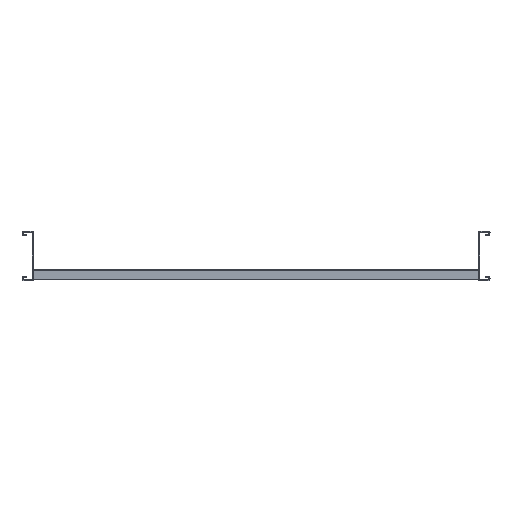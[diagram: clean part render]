
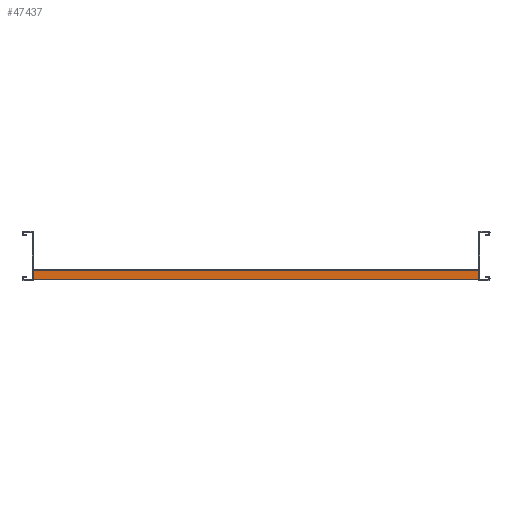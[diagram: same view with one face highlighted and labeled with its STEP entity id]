
A CAD part, left-side view. The second image highlights one B-rep face of the part: STEP entity #47437.
In plain terms, the highlighted planar face has unit normal (-1, 0, 0) as drawn and (0, 1, 0) by its records, which use the part's own axes.
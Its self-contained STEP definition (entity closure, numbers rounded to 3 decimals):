
#3283=FACE_OUTER_BOUND('',#6511,.T.);
#6511=EDGE_LOOP('',(#42644,#42645,#42646,#42647));
#12821=LINE('',#72846,#19101);
#12827=LINE('',#72863,#19107);
#13028=LINE('',#73628,#19308);
#13029=LINE('',#73630,#19309);
#19101=VECTOR('',#59936,304.8);
#19107=VECTOR('',#59948,304.8);
#19308=VECTOR('',#60537,304.8);
#19309=VECTOR('',#60540,304.8);
#23456=VERTEX_POINT('',#72843);
#23457=VERTEX_POINT('',#72845);
#23464=VERTEX_POINT('',#72860);
#23465=VERTEX_POINT('',#72862);
#29776=EDGE_CURVE('',#23456,#23457,#12821,.T.);
#29784=EDGE_CURVE('',#23464,#23465,#12827,.T.);
#30168=EDGE_CURVE('',#23465,#23456,#13028,.T.);
#30169=EDGE_CURVE('',#23464,#23457,#13029,.T.);
#42644=ORIENTED_EDGE('',*,*,#29776,.F.);
#42645=ORIENTED_EDGE('',*,*,#30168,.F.);
#42646=ORIENTED_EDGE('',*,*,#29784,.F.);
#42647=ORIENTED_EDGE('',*,*,#30169,.T.);
#45350=PLANE('',#49858);
#47437=ADVANCED_FACE('',(#3283),#45350,.T.);
#49858=AXIS2_PLACEMENT_3D('',#73629,#60538,#60539);
#59936=DIRECTION('',(0.,0.,-1.));
#59948=DIRECTION('',(0.,0.,1.));
#60537=DIRECTION('',(-1.,0.,0.));
#60538=DIRECTION('center_axis',(0.,1.,0.));
#60539=DIRECTION('ref_axis',(1.,0.,0.));
#60540=DIRECTION('',(-1.,0.,0.));
#72843=CARTESIAN_POINT('',(0.,20.,8.5));
#72845=CARTESIAN_POINT('',(0.,20.,-8.5));
#72846=CARTESIAN_POINT('',(0.,20.,8.5));
#72860=CARTESIAN_POINT('',(900.,20.,-8.5));
#72862=CARTESIAN_POINT('',(900.,20.,8.5));
#72863=CARTESIAN_POINT('',(900.,20.,-8.5));
#73628=CARTESIAN_POINT('',(0.,20.,8.5));
#73629=CARTESIAN_POINT('Origin',(0.,20.,8.5));
#73630=CARTESIAN_POINT('',(0.,20.,-8.5));
